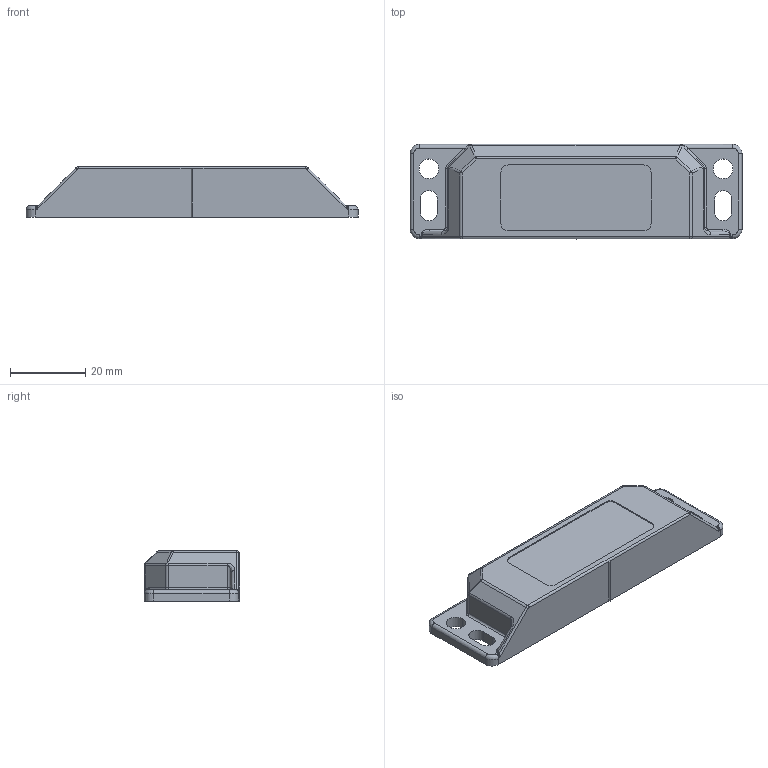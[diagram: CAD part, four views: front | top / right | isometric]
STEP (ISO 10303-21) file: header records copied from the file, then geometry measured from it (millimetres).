
FILE_DESCRIPTION (( 'STEP AP203' ), '1' );
FILE_NAME ('LP Actuator PRES STEP.STEP', '2012-06-18T14:26:53', ( '' ), ( '' ), 'SwSTEP 2.0', 'SolidWorks 2012', '' );
FILE_SCHEMA (( 'CONFIG_CONTROL_DESIGN' ));
Length unit declared in the file: millimetre
Products named in the file (1): LP Actuator PRES STEP
Bounding box: 88 x 25.3 x 13.3 mm (x, y, z)
Surface area: 7146.8 mm2 (no closed solid volume)
Topology: 0 solids, 5 shells, 169 faces, 450 edges, 282 vertices
Faces by surface type: cylinder 61, plane 57, bspline 29, torus 10, sphere 8, cone 4
Entity records: 6035 total; most frequent: CARTESIAN_POINT 1917, ORIENTED_EDGE 844, DIRECTION 818, EDGE_CURVE 444, AXIS2_PLACEMENT_3D 291, VERTEX_POINT 282, LINE 236, VECTOR 236
